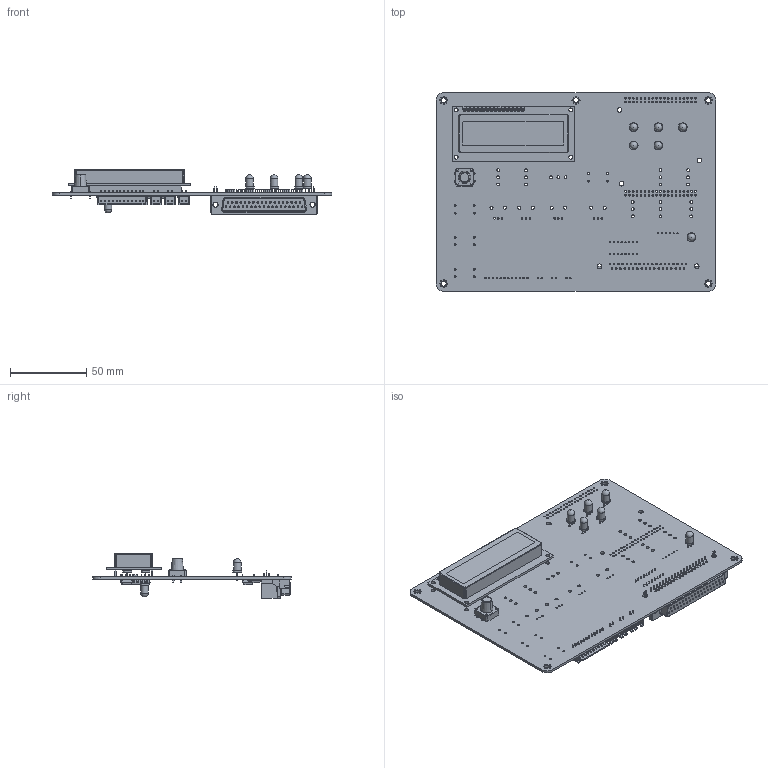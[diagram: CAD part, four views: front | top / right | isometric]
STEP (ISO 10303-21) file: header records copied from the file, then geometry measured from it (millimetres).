
FILE_DESCRIPTION(('KiCad electronic assembly'),'2;1');
FILE_NAME('testbench_io.step','2021-01-26T14:01:10',('An Author'),( 'A Company'),'Open CASCADE STEP processor 6.9', 'KiCad to STEP converter','Unknown');
FILE_SCHEMA(('AUTOMOTIVE_DESIGN { 1 0 10303 214 1 1 1 1 }'));
Length unit declared in the file: millimetre
Products named in the file (27): Open CASCADE STEP translator 6.9 1; tactile_button_tht_12-12-12; SOLID; button_tactile_tht_12-12-12; R_0603_1608Metric; TO-252-2; JST_XH_S12B-XH-A-1_1x12_P2.50mm_Horizontal; WC1602A; SOT-23; LED_D5.0mm; JST_XH_S2B-XH-A-1_1x02_P2.50mm_Horizontal; DIP-4_W7.62mm; DIP-16_W7.62mm; C_0805_2012Metric; DSUB-37_Female_Horizontal_P2.77x2.84mm_EdgePinOffset7.70mm_Housed_
MountingHolesOffset9.12mm; COMPOUND
Assembly tree (59 placements, depth 3):
  Open CASCADE STEP translator 6.9 1
    tactile_button_tht_12-12-12
      SOLID
    button_tactile_tht_12-12-12
    R_0603_1608Metric  x20
      SOLID
    TO-252-2  x6
      SOLID
    JST_XH_S12B-XH-A-1_1x12_P2.50mm_Horizontal
      SOLID
    WC1602A
      SOLID
    SOT-23
      SOLID
    LED_D5.0mm  x7
      SOLID
    JST_XH_S2B-XH-A-1_1x02_P2.50mm_Horizontal  x3
      SOLID
    DIP-4_W7.62mm
      SOLID
    DIP-16_W7.62mm  x2
      SOLID
    C_0805_2012Metric
      SOLID
    DSUB-37_Female_Horizontal_P2.77x2.84mm_EdgePinOffset7.70mm_Housed_
MountingHolesOffset9.12mm
      SOLID
    COMPOUND
Bounding box: 183 x 130 x 29.2 mm (x, y, z)
Volume: 75786.6 mm3; surface area: 72537.1 mm2
Topology: 46 solids, 46 shells, 3495 faces, 9193 edges, 5893 vertices
Faces by surface type: plane 2357, cylinder 926, bspline 99, torus 49, cone 47, sphere 13, revolution 4
Full cylindrical faces by diameter (mm): 0.5 x40, 0.64 x37, 0.762 x6, 0.8 x39, 0.853 x37, 0.9 x14, 0.95 x12, 1 x77, 1.02 x76, 1.2 x16, 1.3 x20, 1.85 x24, 2 x8, 2.5 x8, 3 x3, 3.2 x9, 4 x2, 4.9 x7
Entity records: 146807 total; most frequent: CARTESIAN_POINT 26152, DIRECTION 20680, LINE 12692, VECTOR 12692, ORIENTED_EDGE 10476, PCURVE 10476, DEFINITIONAL_REPRESENTATION 10476, EDGE_CURVE 5238
